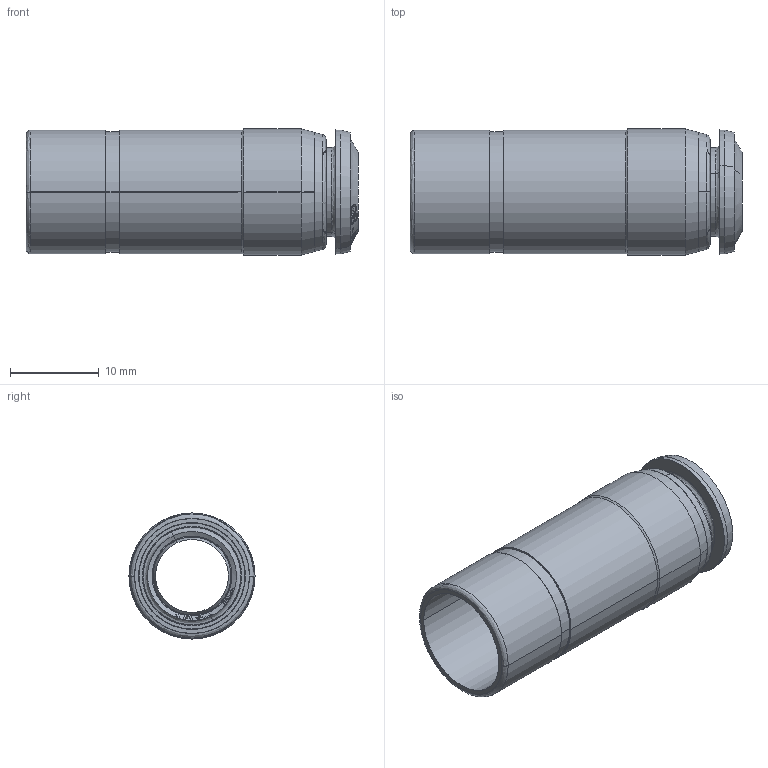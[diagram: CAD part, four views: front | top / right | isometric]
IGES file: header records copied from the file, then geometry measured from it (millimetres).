
Start section: SolidWorks IGES file using analytic representation for surfaces
Global section: file name: C:\Users\cad05\Desktop\5570000014A.IGS; native system: SolidWorks 2013; preprocessor: SolidWorks 2013; author: cad05; date: 150526.131603; units: millimetre
Bounding box: 37.4 x 14.2 x 14.2 mm (x, y, z)
Surface area: 2782.7 mm2 (no closed solid volume)
Topology: 0 solids, 0 shells, 158 faces, 1786 edges, 1786 vertices
Faces by surface type: bspline 110, revolution 48
